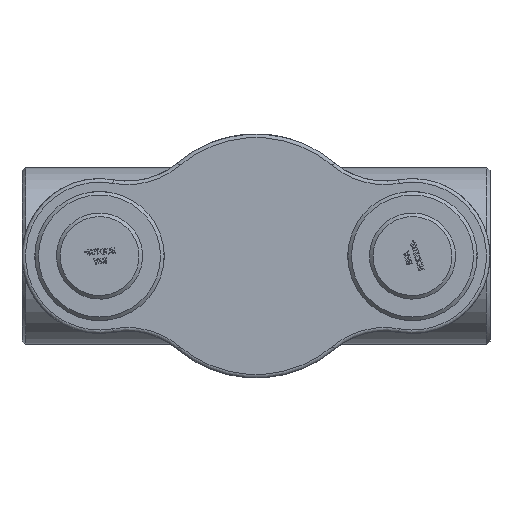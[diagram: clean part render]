
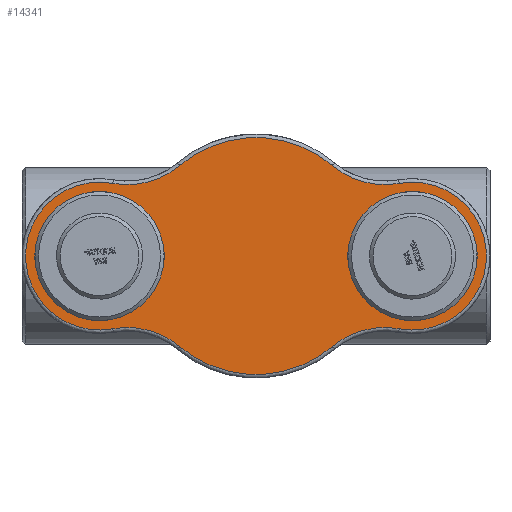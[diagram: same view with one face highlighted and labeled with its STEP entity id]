
A CAD part, front view. The second image highlights one B-rep face of the part: STEP entity #14341.
In plain terms, the highlighted planar face has unit normal (0, -1, 0) as drawn and (0, 0, -1) by its records, which use the part's own axes.
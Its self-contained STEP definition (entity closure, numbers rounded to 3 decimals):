
#3749=PLANE('',#15275);
#4134=FACE_BOUND('',#5089,.T.);
#4135=FACE_BOUND('',#5090,.T.);
#4243=FACE_OUTER_BOUND('',#5088,.T.);
#5088=EDGE_LOOP('',(#9904,#9905,#9906,#9907,#9908,#9909,#9910,#9911));
#5089=EDGE_LOOP('',(#9912));
#5090=EDGE_LOOP('',(#9913));
#6040=CIRCLE('',#15274,67.5);
#6041=CIRCLE('',#15276,103.);
#6042=CIRCLE('',#15277,113.);
#6043=CIRCLE('',#15278,165.);
#6044=CIRCLE('',#15279,113.);
#6045=CIRCLE('',#15280,103.);
#6046=CIRCLE('',#15281,113.);
#6047=CIRCLE('',#15282,165.);
#6048=CIRCLE('',#15283,113.);
#6049=CIRCLE('',#15284,67.5);
#6222=VERTEX_POINT('',#18595);
#6223=VERTEX_POINT('',#18598);
#6224=VERTEX_POINT('',#18599);
#6225=VERTEX_POINT('',#18601);
#6226=VERTEX_POINT('',#18603);
#6227=VERTEX_POINT('',#18605);
#6228=VERTEX_POINT('',#18607);
#6229=VERTEX_POINT('',#18609);
#6230=VERTEX_POINT('',#18611);
#6231=VERTEX_POINT('',#18614);
#7694=EDGE_CURVE('',#6222,#6222,#6040,.T.);
#7695=EDGE_CURVE('',#6223,#6224,#6041,.T.);
#7696=EDGE_CURVE('',#6225,#6223,#6042,.T.);
#7697=EDGE_CURVE('',#6226,#6225,#6043,.T.);
#7698=EDGE_CURVE('',#6227,#6226,#6044,.T.);
#7699=EDGE_CURVE('',#6228,#6227,#6045,.T.);
#7700=EDGE_CURVE('',#6229,#6228,#6046,.T.);
#7701=EDGE_CURVE('',#6230,#6229,#6047,.T.);
#7702=EDGE_CURVE('',#6224,#6230,#6048,.T.);
#7703=EDGE_CURVE('',#6231,#6231,#6049,.T.);
#9904=ORIENTED_EDGE('',*,*,#7695,.F.);
#9905=ORIENTED_EDGE('',*,*,#7696,.F.);
#9906=ORIENTED_EDGE('',*,*,#7697,.F.);
#9907=ORIENTED_EDGE('',*,*,#7698,.F.);
#9908=ORIENTED_EDGE('',*,*,#7699,.F.);
#9909=ORIENTED_EDGE('',*,*,#7700,.F.);
#9910=ORIENTED_EDGE('',*,*,#7701,.F.);
#9911=ORIENTED_EDGE('',*,*,#7702,.F.);
#9912=ORIENTED_EDGE('',*,*,#7703,.F.);
#9913=ORIENTED_EDGE('',*,*,#7694,.F.);
#14341=ADVANCED_FACE('',(#4243,#4134,#4135),#3749,.F.);
#15274=AXIS2_PLACEMENT_3D('',#18596,#15977,#15978);
#15275=AXIS2_PLACEMENT_3D('',#18597,#15979,#15980);
#15276=AXIS2_PLACEMENT_3D('',#18600,#15981,#15982);
#15277=AXIS2_PLACEMENT_3D('',#18602,#15983,#15984);
#15278=AXIS2_PLACEMENT_3D('',#18604,#15985,#15986);
#15279=AXIS2_PLACEMENT_3D('',#18606,#15987,#15988);
#15280=AXIS2_PLACEMENT_3D('',#18608,#15989,#15990);
#15281=AXIS2_PLACEMENT_3D('',#18610,#15991,#15992);
#15282=AXIS2_PLACEMENT_3D('',#18612,#15993,#15994);
#15283=AXIS2_PLACEMENT_3D('',#18613,#15995,#15996);
#15284=AXIS2_PLACEMENT_3D('',#18615,#15997,#15998);
#15977=DIRECTION('center_axis',(0.,0.,-1.));
#15978=DIRECTION('ref_axis',(1.,0.,0.));
#15979=DIRECTION('center_axis',(0.,0.,1.));
#15980=DIRECTION('ref_axis',(1.,0.,0.));
#15981=DIRECTION('center_axis',(0.,0.,1.));
#15982=DIRECTION('ref_axis',(-1.,0.,0.));
#15983=DIRECTION('center_axis',(0.,0.,-1.));
#15984=DIRECTION('ref_axis',(0.257,-0.966,0.));
#15985=DIRECTION('center_axis',(0.,0.,1.));
#15986=DIRECTION('ref_axis',(0.,1.,0.));
#15987=DIRECTION('center_axis',(0.,0.,-1.));
#15988=DIRECTION('ref_axis',(-0.257,-0.966,0.));
#15989=DIRECTION('center_axis',(0.,0.,1.));
#15990=DIRECTION('ref_axis',(1.,0.,0.));
#15991=DIRECTION('center_axis',(0.,0.,-1.));
#15992=DIRECTION('ref_axis',(-0.257,0.966,0.));
#15993=DIRECTION('center_axis',(0.,0.,1.));
#15994=DIRECTION('ref_axis',(0.,-1.,0.));
#15995=DIRECTION('center_axis',(0.,0.,-1.));
#15996=DIRECTION('ref_axis',(0.257,0.966,0.));
#15997=DIRECTION('center_axis',(0.,0.,-1.));
#15998=DIRECTION('ref_axis',(1.,0.,0.));
#18595=CARTESIAN_POINT('',(150.5,0.,0.));
#18596=CARTESIAN_POINT('Origin',(218.,0.,0.));
#18597=CARTESIAN_POINT('Origin',(0.,0.,
0.));
#18598=CARTESIAN_POINT('',(-199.521,101.329,0.));
#18599=CARTESIAN_POINT('',(-199.521,-101.329,0.));
#18600=CARTESIAN_POINT('Origin',(-218.,0.,0.));
#18601=CARTESIAN_POINT('',(-106.388,126.121,0.));
#18602=CARTESIAN_POINT('Origin',(-179.248,212.495,0.));
#18603=CARTESIAN_POINT('',(106.388,126.121,0.));
#18604=CARTESIAN_POINT('Origin',(0.,0.,0.));
#18605=CARTESIAN_POINT('',(199.521,101.329,0.));
#18606=CARTESIAN_POINT('Origin',(179.248,212.495,0.));
#18607=CARTESIAN_POINT('',(199.521,-101.329,0.));
#18608=CARTESIAN_POINT('Origin',(218.,0.,0.));
#18609=CARTESIAN_POINT('',(106.388,-126.121,0.));
#18610=CARTESIAN_POINT('Origin',(179.248,-212.495,0.));
#18611=CARTESIAN_POINT('',(-106.388,-126.121,0.));
#18612=CARTESIAN_POINT('Origin',(0.,0.,0.));
#18613=CARTESIAN_POINT('Origin',(-179.248,-212.495,0.));
#18614=CARTESIAN_POINT('',(-285.5,0.,0.));
#18615=CARTESIAN_POINT('Origin',(-218.,0.,0.));
